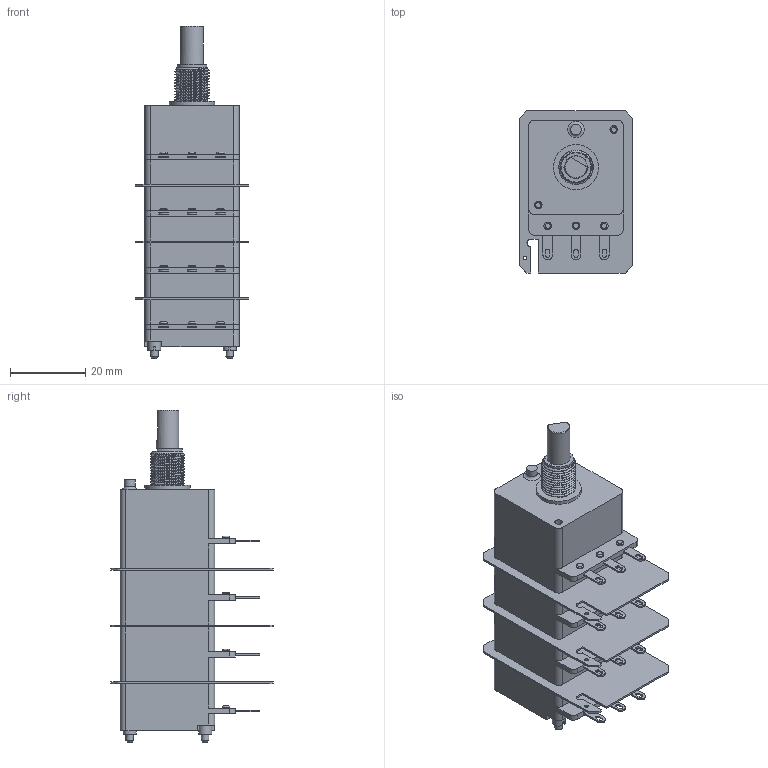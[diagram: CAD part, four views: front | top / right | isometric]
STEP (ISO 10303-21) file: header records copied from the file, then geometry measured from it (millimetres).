
FILE_DESCRIPTION(('FreeCAD Model'),'2;1');
FILE_NAME('Open CASCADE Shape Model','2026-07-14T16:01:15',(''),(''), 'Open CASCADE STEP processor 7.8','FreeCAD','Unknown');
FILE_SCHEMA(('AUTOMOTIVE_DESIGN { 1 0 10303 214 1 1 1 1 }'));
Length unit declared in the file: millimetre
Products named in the file (1): 4CP25XX-S-6F20
Bounding box: 30 x 43 x 88 mm (x, y, z)
Volume: 42138.8 mm3; surface area: 16145.3 mm2
Topology: 1 solids, 26 shells, 509 faces, 1164 edges, 766 vertices
Faces by surface type: plane 285, cylinder 165, bspline 38, torus 15, cone 6
Full cylindrical faces by diameter (mm): 1 x3, 1.9 x14, 2 x32, 2.2 x20, 2.8 x1, 3.5 x2, 4.5 x4, 5.4 x1, 6 x1, 6.05 x1, 8 x1, 9 x3, 12 x1
Entity records: 21826 total; most frequent: CARTESIAN_POINT 6790, DIRECTION 2431, ORIENTED_EDGE 2326, EDGE_CURVE 1163, AXIS2_PLACEMENT_3D 904, VERTEX_POINT 766, LINE 623, VECTOR 623
